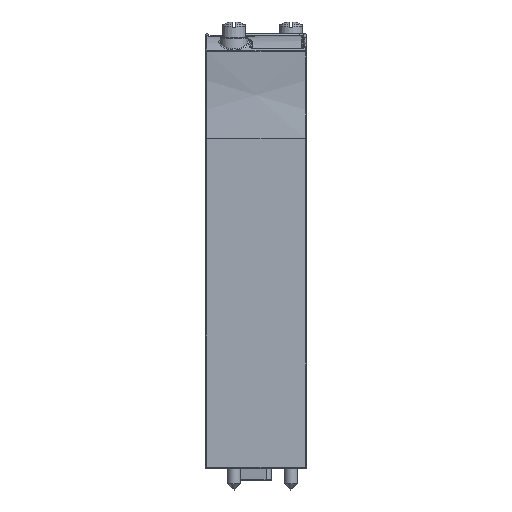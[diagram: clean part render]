
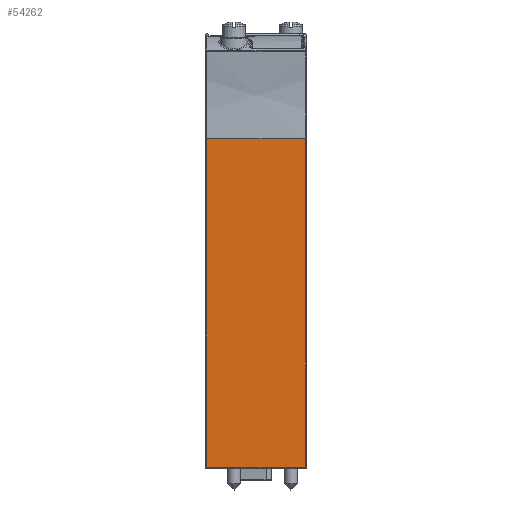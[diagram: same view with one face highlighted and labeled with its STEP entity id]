
A CAD part, front view. The second image highlights one B-rep face of the part: STEP entity #54262.
In plain terms, the highlighted planar face has unit normal (-0.009, -1, 0).
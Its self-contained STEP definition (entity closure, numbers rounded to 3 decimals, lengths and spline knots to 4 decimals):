
#1035=DIRECTION('',(0.,0.,1.));
#1036=VECTOR('',#1035,2.502);
#1037=CARTESIAN_POINT('',(0.0099,-2.0438,0.01));
#1038=LINE('',#1037,#1036);
#21581=CARTESIAN_POINT('',(0.0099,-2.0438,
2.512));
#21582=CARTESIAN_POINT('',(0.0933,-2.0445,
2.512));
#21583=CARTESIAN_POINT('',(0.26,-2.046,
2.5122));
#21584=CARTESIAN_POINT('',(0.5096,-2.0482,
2.5123));
#21585=CARTESIAN_POINT('',(0.6759,-2.0496,
2.5125));
#21586=CARTESIAN_POINT('',(0.7589,-2.0503,
2.5125));
#21588=DIRECTION('',(0.,0.,-1.));
#21589=VECTOR('',#21588,2.5025);
#21590=CARTESIAN_POINT('',(0.7589,-2.0503,
2.5125));
#21591=LINE('',#21590,#21589);
#21615=DIRECTION('',(-1.,0.009,0.));
#21616=VECTOR('',#21615,0.749);
#21617=CARTESIAN_POINT('',(0.7589,-2.0503,0.01));
#21618=LINE('',#21617,#21616);
#27006=CARTESIAN_POINT('',(0.0099,-2.0438,0.01));
#27007=CARTESIAN_POINT('',(0.0099,-2.0438,
2.512));
#27008=VERTEX_POINT('',#27006);
#27009=VERTEX_POINT('',#27007);
#27014=CARTESIAN_POINT('',(0.7589,-2.0503,
2.5125));
#27015=CARTESIAN_POINT('',(0.7589,-2.0503,0.01));
#27016=VERTEX_POINT('',#27014);
#27017=VERTEX_POINT('',#27015);
#54249=CARTESIAN_POINT('',(0.719,-2.05,4.34));
#54250=DIRECTION('',(-0.009,-1.,0.));
#54251=DIRECTION('',(0.,0.,-1.));
#54252=AXIS2_PLACEMENT_3D('',#54249,#54250,#54251);
#54253=PLANE('',#54252);
#54254=ORIENTED_EDGE('',*,*,#30497,.T.);
#54255=ORIENTED_EDGE('',*,*,#37878,.T.);
#54257=ORIENTED_EDGE('',*,*,#54256,.T.);
#54259=ORIENTED_EDGE('',*,*,#54258,.T.);
#54260=EDGE_LOOP('',(#54254,#54255,#54257,#54259));
#54261=FACE_OUTER_BOUND('',#54260,.F.);
#54262=ADVANCED_FACE('',(#54261),#54253,.T.);
#21587=B_SPLINE_CURVE_WITH_KNOTS('',3,(#21581,#21582,#21583,#21584,#21585,
#21586),.UNSPECIFIED.,.F.,.F.,(4,1,1,4),(0.,0.3333,
0.6667,1.),.UNSPECIFIED.);
#30497=EDGE_CURVE('',#27008,#27009,#1038,.T.);
#37878=EDGE_CURVE('',#27009,#27016,#21587,.T.);
#54256=EDGE_CURVE('',#27016,#27017,#21591,.T.);
#54258=EDGE_CURVE('',#27017,#27008,#21618,.T.);
